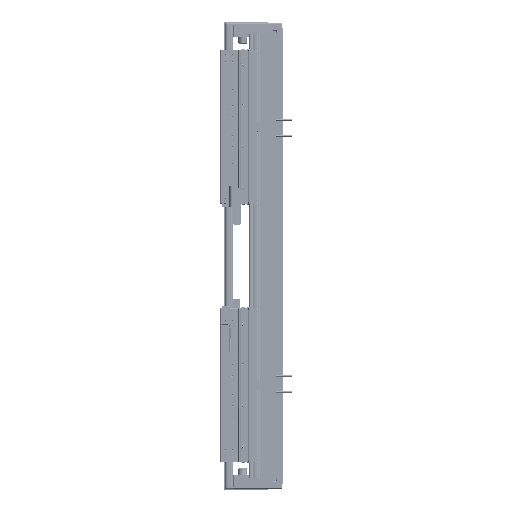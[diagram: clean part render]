
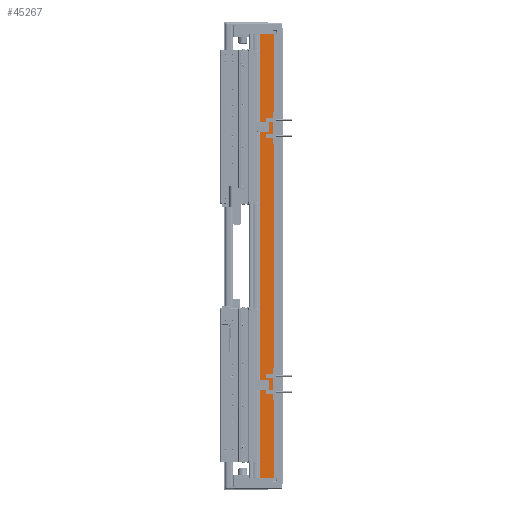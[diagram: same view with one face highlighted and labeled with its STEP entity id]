
A CAD part, left-side view. The second image highlights one B-rep face of the part: STEP entity #45267.
In plain terms, the highlighted planar face has unit normal (-1, 0, 0).
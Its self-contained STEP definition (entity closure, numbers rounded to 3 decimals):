
#1706 = EDGE_CURVE ( 'NONE', #32783, #64526, #29639, .T. ) ;
#5123 = CARTESIAN_POINT ( 'NONE',  ( -97.5, 36.95, 360. ) ) ;
#9872 = CARTESIAN_POINT ( 'NONE',  ( -97.5, 14.45, 360. ) ) ;
#10395 = EDGE_CURVE ( 'NONE', #144698, #32783, #69032, .T. ) ;
#16844 = ORIENTED_EDGE ( 'NONE', *, *, #10395, .T. ) ;
#19702 = CARTESIAN_POINT ( 'NONE',  ( -97.5, 36.95, -360. ) ) ;
#29639 = LINE ( 'NONE', #31090, #83009 ) ;
#31090 = CARTESIAN_POINT ( 'NONE',  ( -97.5, 36.95, -360. ) ) ;
#31190 = LINE ( 'NONE', #9872, #120705 ) ;
#32783 = VERTEX_POINT ( 'NONE', #19702 ) ;
#36801 = CARTESIAN_POINT ( 'NONE',  ( -97.5, 36.95, 360. ) ) ;
#37342 = VECTOR ( 'NONE', #138065, 1000. ) ;
#45267 = ADVANCED_FACE ( 'NONE', ( #98306 ), #75537, .F. ) ;
#47547 = CARTESIAN_POINT ( 'NONE',  ( -97.5, 14.45, 360. ) ) ;
#55216 = ORIENTED_EDGE ( 'NONE', *, *, #63527, .F. ) ;
#63417 = DIRECTION ( 'NONE',  ( 0., -1., 0. ) ) ;
#63527 = EDGE_CURVE ( 'NONE', #76384, #64526, #31190, .T. ) ;
#64526 = VERTEX_POINT ( 'NONE', #85070 ) ;
#69032 = LINE ( 'NONE', #134457, #111614 ) ;
#75537 = PLANE ( 'NONE',  #93159 ) ;
#76384 = VERTEX_POINT ( 'NONE', #47547 ) ;
#76991 = DIRECTION ( 'NONE',  ( 0., 1., 0. ) ) ;
#83009 = VECTOR ( 'NONE', #63417, 1000. ) ;
#85070 = CARTESIAN_POINT ( 'NONE',  ( -97.5, 14.45, -360. ) ) ;
#87287 = DIRECTION ( 'NONE',  ( 1., 0., 0. ) ) ;
#93159 = AXIS2_PLACEMENT_3D ( 'NONE', #111482, #87287, #76991 ) ;
#93310 = LINE ( 'NONE', #5123, #37342 ) ;
#98306 = FACE_OUTER_BOUND ( 'NONE', #127388, .T. ) ;
#98786 = DIRECTION ( 'NONE',  ( 0., 0., -1. ) ) ;
#102166 = ORIENTED_EDGE ( 'NONE', *, *, #118416, .F. ) ;
#111482 = CARTESIAN_POINT ( 'NONE',  ( -97.5, 36.95, 360. ) ) ;
#111614 = VECTOR ( 'NONE', #122720, 1000. ) ;
#118416 = EDGE_CURVE ( 'NONE', #144698, #76384, #93310, .T. ) ;
#119063 = ORIENTED_EDGE ( 'NONE', *, *, #1706, .T. ) ;
#120705 = VECTOR ( 'NONE', #98786, 1000. ) ;
#122720 = DIRECTION ( 'NONE',  ( 0., 0., -1. ) ) ;
#127388 = EDGE_LOOP ( 'NONE', ( #119063, #55216, #102166, #16844 ) ) ;
#134457 = CARTESIAN_POINT ( 'NONE',  ( -97.5, 36.95, 360. ) ) ;
#138065 = DIRECTION ( 'NONE',  ( 0., -1., 0. ) ) ;
#144698 = VERTEX_POINT ( 'NONE', #36801 ) ;
